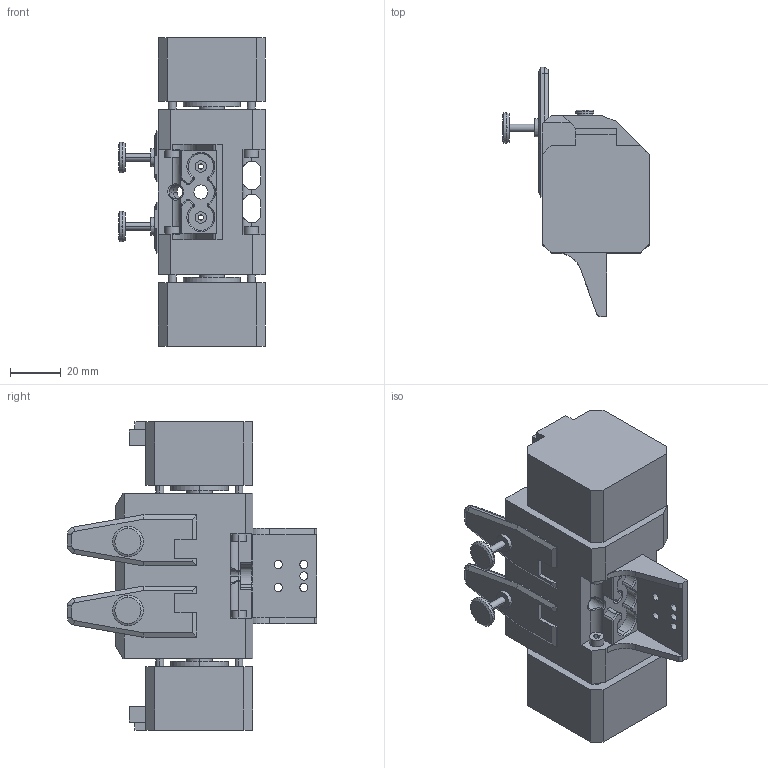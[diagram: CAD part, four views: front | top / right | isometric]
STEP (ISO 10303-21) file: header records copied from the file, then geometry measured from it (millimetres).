
FILE_DESCRIPTION (( 'STEP AP214' ), '1' );
FILE_NAME ('BMG-X2_CC20.STEP', '2018-12-01T19:54:36', ( '' ), ( '' ), 'SwSTEP 2.0', 'SolidWorks 2017', '' );
FILE_SCHEMA (( 'AUTOMOTIVE_DESIGN' ));
Length unit declared in the file: millimetre
Products named in the file (1): BMG-X2_CC20
Bounding box: 57.5 x 97.75 x 121 mm (x, y, z)
Volume: 214201.5 mm3; surface area: 42712.3 mm2
Topology: 1 solids, 1 shells, 805 faces, 2106 edges, 1383 vertices
Faces by surface type: plane 450, bspline 185, cylinder 121, cone 37, torus 12
Entity records: 30348 total; most frequent: CARTESIAN_POINT 11444, ORIENTED_EDGE 4212, DIRECTION 3280, EDGE_CURVE 2106, VECTOR 1410, LINE 1410, VERTEX_POINT 1383, AXIS2_PLACEMENT_3D 935
